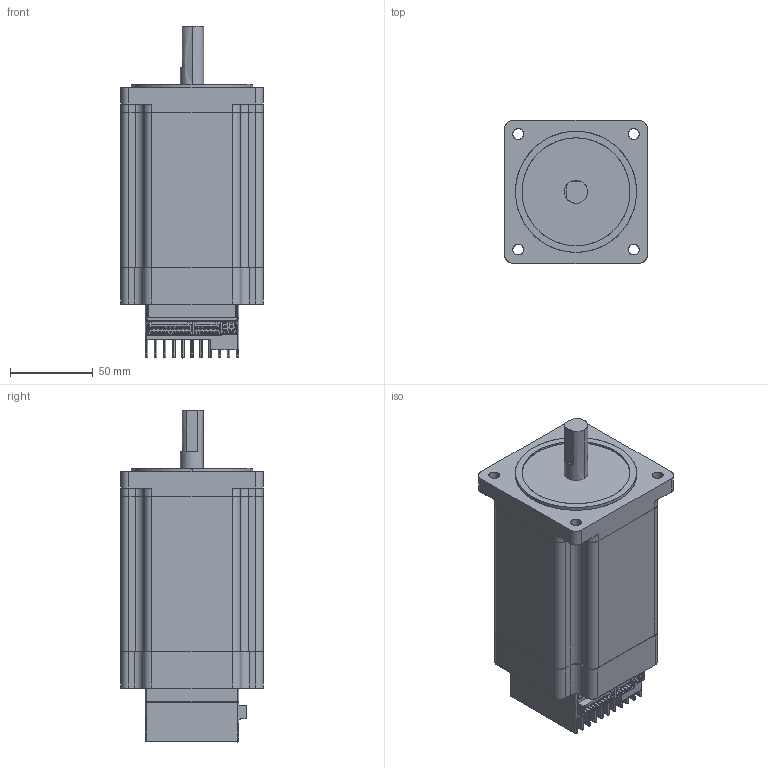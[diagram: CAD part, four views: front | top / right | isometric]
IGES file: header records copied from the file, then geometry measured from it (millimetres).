
Start section: SolidWorks IGES file using analytic representation for surfaces
Global section: file name: C:\Work\Sevotronix\NEMA 34 controller\CAD\Drawings and models for marketing\stepIM_IST-34L22CO10.IGS; native system: SolidWorks 2013; preprocessor: SolidWorks 2013; author: owner; date: 150511.010617; units: millimetre
Bounding box: 86 x 86 x 200 mm (x, y, z)
Surface area: 172668.6 mm2 (no closed solid volume)
Topology: 0 solids, 0 shells, 1942 faces, 18736 edges, 18724 vertices
Faces by surface type: bspline 1279, revolution 663
